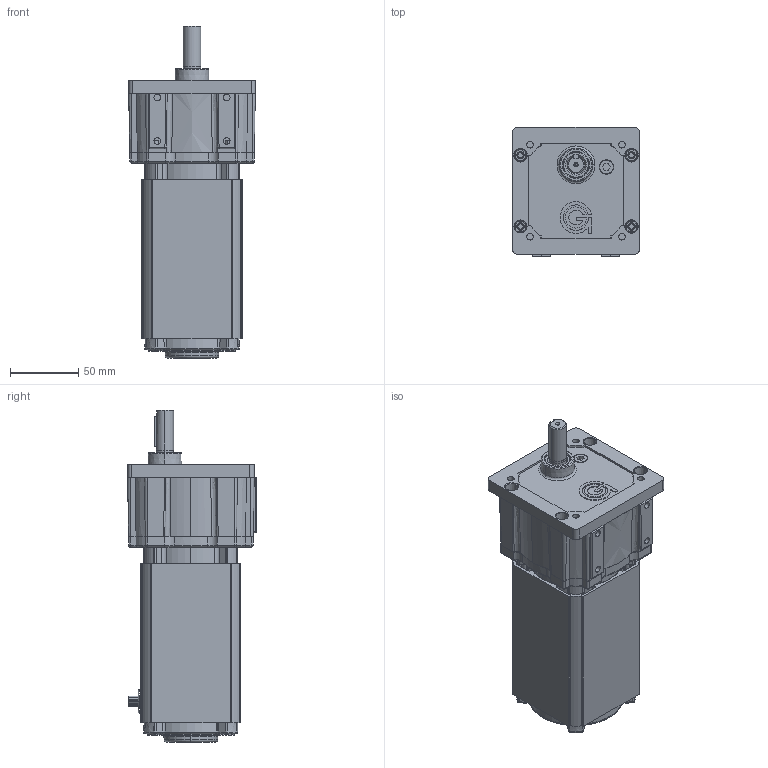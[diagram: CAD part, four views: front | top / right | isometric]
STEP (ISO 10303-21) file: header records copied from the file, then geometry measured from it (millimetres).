
FILE_DESCRIPTION (( 'STEP AP214' ), '1' );
FILE_NAME ('BL6540-PS1900.STEP', '2016-05-04T15:39:42', ( '' ), ( '' ), 'SwSTEP 2.0', 'SolidWorks 2015', '' );
FILE_SCHEMA (( 'AUTOMOTIVE_DESIGN' ));
Length unit declared in the file: millimetre
Products named in the file (1): BL6540-PS1900
Bounding box: 92.71 x 94.36 x 242.93 mm (x, y, z)
Surface area: 133718.2 mm2 (no closed solid volume)
Topology: 0 solids, 52 shells, 872 faces, 2879 edges, 2024 vertices
Faces by surface type: cylinder 338, plane 226, cone 147, torus 108, bspline 35, sphere 18
Entity records: 45867 total; most frequent: CARTESIAN_POINT 11611, DIRECTION 5216, ORIENTED_EDGE 4762, EDGE_CURVE 2861, VERTEX_POINT 2024, AXIS2_PLACEMENT_3D 2011, LINE 1194, VECTOR 1194
